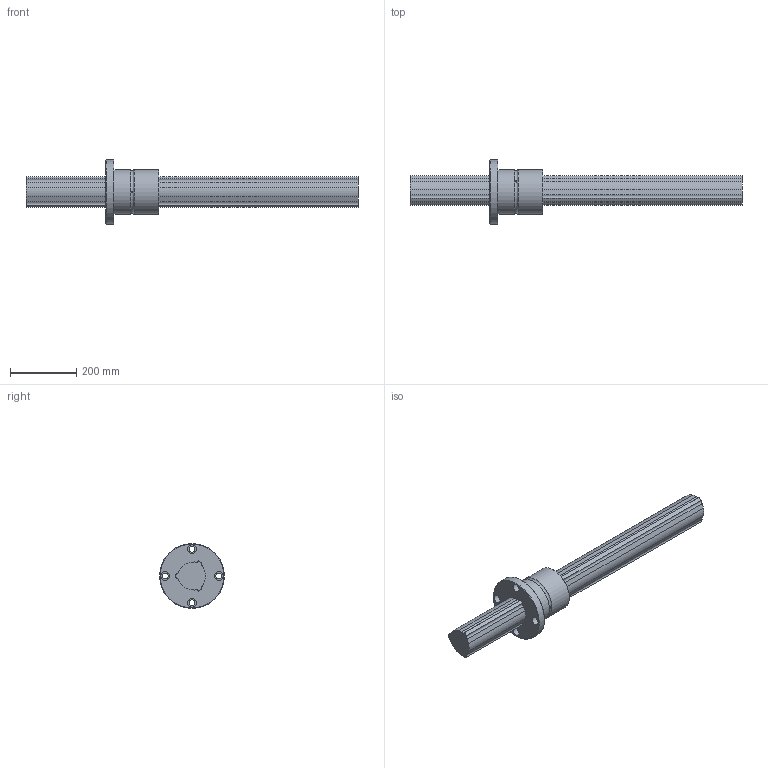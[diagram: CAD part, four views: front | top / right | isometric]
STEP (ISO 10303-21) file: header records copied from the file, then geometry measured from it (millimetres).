
FILE_DESCRIPTION(/* description */ ('STEP AP214'),/* implementation_level */ '2;1');
FILE_NAME(/* name */ 'LBF100+1000L(10002400)',/* time_stamp */ '2024-09-04T13:04:57+02:00',/* author */ ('License CC BY-ND 4.0'),/* organization */ ('CADENAS'),/* preprocessor_version */ 'ST-DEVELOPER v19.3',/* originating_system */ 'PARTsolutions',/* authorisation */ ' ');
FILE_SCHEMA (('AUTOMOTIVE_DESIGN {1 0 10303 214 3 1 1}'));
Length unit declared in the file: millimetre
Products named in the file (3): LBF100+1000L(10002400); LBF10011000 Spline Shaft; LBF100 Nut
Assembly tree (2 placements, depth 2):
  LBF100+1000L(10002400)
    LBF10011000 Spline Shaft
    LBF100 Nut
Bounding box: 1000 x 195 x 195 mm (x, y, z)
Volume: 7402879.8 mm3; surface area: 477510.3 mm2
Topology: 2 solids, 2 shells, 66 faces, 164 edges, 110 vertices
Faces by surface type: cylinder 38, plane 24, torus 2, cone 2
Full cylindrical faces by diameter (mm): 5 x3, 18 x4, 26 x4, 135 x2, 195 x1
Entity records: 1978 total; most frequent: CARTESIAN_POINT 353, DIRECTION 350, ORIENTED_EDGE 278, AXIS2_PLACEMENT_3D 145, EDGE_CURVE 139, VERTEX_POINT 103, EDGE_LOOP 102, FACE_BOUND 102
